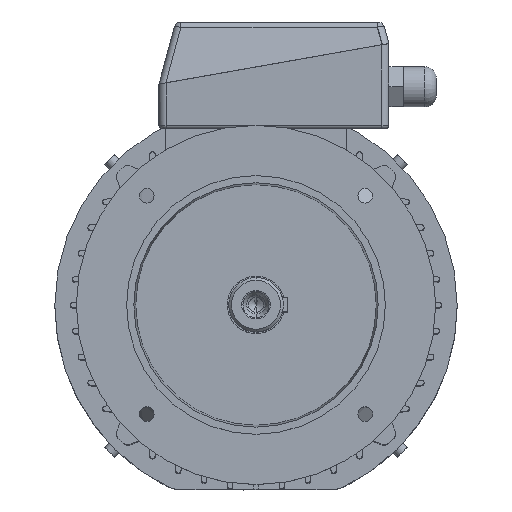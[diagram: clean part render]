
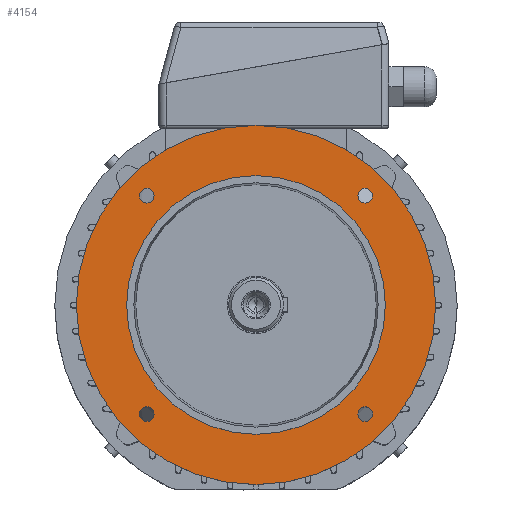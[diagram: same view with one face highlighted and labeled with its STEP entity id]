
A CAD part, top view. The second image highlights one B-rep face of the part: STEP entity #4154.
In plain terms, the highlighted planar face has unit normal (0, 0, 1).
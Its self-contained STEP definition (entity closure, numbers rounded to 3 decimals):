
#62 = EDGE_LOOP ( 'NONE', ( #15261, #14678 ) ) ;
#212 = CIRCLE ( 'NONE', #213, 5.1 ) ;
#213 = AXIS2_PLACEMENT_3D ( 'NONE', #214, #215, #216 ) ;
#214 = CARTESIAN_POINT ( 'NONE',  ( 76.014, 76.014, 58. ) ) ;
#215 = DIRECTION ( 'NONE',  ( 0., 0., 1. ) ) ;
#216 = DIRECTION ( 'NONE',  ( 1., 0., 0. ) ) ;
#236 = CARTESIAN_POINT ( 'NONE',  ( 90., 0., 58. ) ) ;
#339 = ORIENTED_EDGE ( 'NONE', *, *, #13151, .F. ) ;
#914 = EDGE_CURVE ( 'NONE', #13093, #13454, #14035, .T. ) ;
#923 = FACE_BOUND ( 'NONE', #3891, .T. ) ;
#924 = FACE_BOUND ( 'NONE', #1886, .T. ) ;
#925 = FACE_BOUND ( 'NONE', #62, .T. ) ;
#926 = FACE_OUTER_BOUND ( 'NONE', #13986, .T. ) ;
#927 = FACE_BOUND ( 'NONE', #13336, .T. ) ;
#928 = FACE_BOUND ( 'NONE', #12959, .T. ) ;
#929 = PLANE ( 'NONE',  #930 ) ;
#930 = AXIS2_PLACEMENT_3D ( 'NONE', #933, #934, #935 ) ;
#933 = CARTESIAN_POINT ( 'NONE',  ( 0., 125., 58. ) ) ;
#934 = DIRECTION ( 'NONE',  ( 0., 0., -1. ) ) ;
#935 = DIRECTION ( 'NONE',  ( -1., 0., 0. ) ) ;
#1324 = ORIENTED_EDGE ( 'NONE', *, *, #914, .F. ) ;
#1886 = EDGE_LOOP ( 'NONE', ( #1324, #339 ) ) ;
#2157 = ORIENTED_EDGE ( 'NONE', *, *, #7624, .F. ) ;
#2722 = EDGE_CURVE ( 'NONE', #7371, #9812, #212, .T. ) ;
#2743 = VERTEX_POINT ( 'NONE', #236 ) ;
#3083 = ORIENTED_EDGE ( 'NONE', *, *, #2722, .F. ) ;
#3891 = EDGE_LOOP ( 'NONE', ( #3083, #2157 ) ) ;
#4089 = CIRCLE ( 'NONE', #4090, 90. ) ;
#4090 = AXIS2_PLACEMENT_3D ( 'NONE', #4091, #4092, #4093 ) ;
#4091 = CARTESIAN_POINT ( 'NONE',  ( 0., 0., 58. ) ) ;
#4092 = DIRECTION ( 'NONE',  ( 0., 0., 1. ) ) ;
#4093 = DIRECTION ( 'NONE',  ( 1., 0., 0. ) ) ;
#4154 = ADVANCED_FACE ( 'NONE', ( #923, #924, #925, #926, #927, #928 ), #929, .F. ) ;
#4540 = CARTESIAN_POINT ( 'NONE',  ( 125., 0., 58. ) ) ;
#4625 = CARTESIAN_POINT ( 'NONE',  ( 81.114, 76.014, 58. ) ) ;
#4752 = CIRCLE ( 'NONE', #4753, 5.1 ) ;
#4753 = AXIS2_PLACEMENT_3D ( 'NONE', #4754, #4755, #4756 ) ;
#4754 = CARTESIAN_POINT ( 'NONE',  ( 76.014, 76.014, 58. ) ) ;
#4755 = DIRECTION ( 'NONE',  ( 0., 0., 1. ) ) ;
#4756 = DIRECTION ( 'NONE',  ( 1., 0., 0. ) ) ;
#5289 = CARTESIAN_POINT ( 'NONE',  ( -81.114, -76.014, 58. ) ) ;
#6094 = EDGE_CURVE ( 'NONE', #2743, #12861, #4089, .T. ) ;
#6399 = CARTESIAN_POINT ( 'NONE',  ( -70.914, 76.014, 58. ) ) ;
#6480 = CIRCLE ( 'NONE', #6481, 90. ) ;
#6481 = AXIS2_PLACEMENT_3D ( 'NONE', #6482, #6483, #6484 ) ;
#6482 = CARTESIAN_POINT ( 'NONE',  ( 0., 0., 58. ) ) ;
#6483 = DIRECTION ( 'NONE',  ( 0., 0., 1. ) ) ;
#6484 = DIRECTION ( 'NONE',  ( 1., 0., 0. ) ) ;
#6640 = CIRCLE ( 'NONE', #6641, 5.1 ) ;
#6641 = AXIS2_PLACEMENT_3D ( 'NONE', #6642, #6643, #6644 ) ;
#6642 = CARTESIAN_POINT ( 'NONE',  ( -76.014, 76.014, 58. ) ) ;
#6643 = DIRECTION ( 'NONE',  ( 0., 0., 1. ) ) ;
#6644 = DIRECTION ( 'NONE',  ( 1., 0., 0. ) ) ;
#7185 = VERTEX_POINT ( 'NONE', #4540 ) ;
#7371 = VERTEX_POINT ( 'NONE', #4625 ) ;
#7593 = CARTESIAN_POINT ( 'NONE',  ( -125., 0., 58. ) ) ;
#7624 = EDGE_CURVE ( 'NONE', #9812, #7371, #4752, .T. ) ;
#7744 = CARTESIAN_POINT ( 'NONE',  ( 70.914, 76.014, 58. ) ) ;
#8347 = CIRCLE ( 'NONE', #8348, 125. ) ;
#8348 = AXIS2_PLACEMENT_3D ( 'NONE', #8349, #8350, #8351 ) ;
#8349 = CARTESIAN_POINT ( 'NONE',  ( 0., 0., 58. ) ) ;
#8350 = DIRECTION ( 'NONE',  ( 0., 0., 1. ) ) ;
#8351 = DIRECTION ( 'NONE',  ( 1., 0., 0. ) ) ;
#9305 = CARTESIAN_POINT ( 'NONE',  ( -81.114, 76.014, 58. ) ) ;
#9598 = CIRCLE ( 'NONE', #9599, 5.1 ) ;
#9599 = AXIS2_PLACEMENT_3D ( 'NONE', #9600, #9601, #9602 ) ;
#9600 = CARTESIAN_POINT ( 'NONE',  ( -76.014, 76.014, 58. ) ) ;
#9601 = DIRECTION ( 'NONE',  ( 0., 0., 1. ) ) ;
#9602 = DIRECTION ( 'NONE',  ( 1., 0., 0. ) ) ;
#9812 = VERTEX_POINT ( 'NONE', #7744 ) ;
#10478 = CARTESIAN_POINT ( 'NONE',  ( -90., 0., 58. ) ) ;
#10646 = EDGE_CURVE ( 'NONE', #7185, #15005, #8347, .T. ) ;
#11097 = CARTESIAN_POINT ( 'NONE',  ( 81.114, -76.014, 58. ) ) ;
#11146 = CIRCLE ( 'NONE', #11147, 5.1 ) ;
#11147 = AXIS2_PLACEMENT_3D ( 'NONE', #11148, #11149, #11150 ) ;
#11148 = CARTESIAN_POINT ( 'NONE',  ( -76.014, -76.014, 58. ) ) ;
#11149 = DIRECTION ( 'NONE',  ( 0., 0., 1. ) ) ;
#11150 = DIRECTION ( 'NONE',  ( 1., 0., 0. ) ) ;
#11207 = CIRCLE ( 'NONE', #11208, 5.1 ) ;
#11208 = AXIS2_PLACEMENT_3D ( 'NONE', #11209, #11211, #11212 ) ;
#11209 = CARTESIAN_POINT ( 'NONE',  ( 76.014, -76.014, 58. ) ) ;
#11211 = DIRECTION ( 'NONE',  ( 0., 0., 1. ) ) ;
#11212 = DIRECTION ( 'NONE',  ( 1., 0., 0. ) ) ;
#11536 = CARTESIAN_POINT ( 'NONE',  ( -70.914, -76.014, 58. ) ) ;
#11687 = CIRCLE ( 'NONE', #11688, 125. ) ;
#11688 = AXIS2_PLACEMENT_3D ( 'NONE', #11689, #11690, #11691 ) ;
#11689 = CARTESIAN_POINT ( 'NONE',  ( 0., 0., 58. ) ) ;
#11690 = DIRECTION ( 'NONE',  ( 0., 0., 1. ) ) ;
#11691 = DIRECTION ( 'NONE',  ( 1., 0., 0. ) ) ;
#11753 = CIRCLE ( 'NONE', #11754, 5.1 ) ;
#11754 = AXIS2_PLACEMENT_3D ( 'NONE', #11755, #11756, #11757 ) ;
#11755 = CARTESIAN_POINT ( 'NONE',  ( -76.014, -76.014, 58. ) ) ;
#11756 = DIRECTION ( 'NONE',  ( 0., 0., 1. ) ) ;
#11757 = DIRECTION ( 'NONE',  ( 1., 0., 0. ) ) ;
#11854 = CARTESIAN_POINT ( 'NONE',  ( 70.914, -76.014, 58. ) ) ;
#12321 = ORIENTED_EDGE ( 'NONE', *, *, #14443, .F. ) ;
#12335 = VERTEX_POINT ( 'NONE', #9305 ) ;
#12442 = EDGE_CURVE ( 'NONE', #14200, #12335, #9598, .T. ) ;
#12527 = ORIENTED_EDGE ( 'NONE', *, *, #12442, .F. ) ;
#12861 = VERTEX_POINT ( 'NONE', #10478 ) ;
#12959 = EDGE_LOOP ( 'NONE', ( #12527, #12321 ) ) ;
#13009 = ORIENTED_EDGE ( 'NONE', *, *, #13419, .F. ) ;
#13093 = VERTEX_POINT ( 'NONE', #11097 ) ;
#13124 = EDGE_CURVE ( 'NONE', #13315, #13638, #11146, .T. ) ;
#13151 = EDGE_CURVE ( 'NONE', #13454, #13093, #11207, .T. ) ;
#13212 = ORIENTED_EDGE ( 'NONE', *, *, #13124, .F. ) ;
#13315 = VERTEX_POINT ( 'NONE', #11536 ) ;
#13336 = EDGE_LOOP ( 'NONE', ( #13212, #13009 ) ) ;
#13387 = EDGE_CURVE ( 'NONE', #15005, #7185, #11687, .T. ) ;
#13419 = EDGE_CURVE ( 'NONE', #13638, #13315, #11753, .T. ) ;
#13454 = VERTEX_POINT ( 'NONE', #11854 ) ;
#13482 = ORIENTED_EDGE ( 'NONE', *, *, #13387, .T. ) ;
#13612 = ORIENTED_EDGE ( 'NONE', *, *, #10646, .T. ) ;
#13638 = VERTEX_POINT ( 'NONE', #5289 ) ;
#13986 = EDGE_LOOP ( 'NONE', ( #13612, #13482 ) ) ;
#14035 = CIRCLE ( 'NONE', #14036, 5.1 ) ;
#14036 = AXIS2_PLACEMENT_3D ( 'NONE', #14037, #14038, #14039 ) ;
#14037 = CARTESIAN_POINT ( 'NONE',  ( 76.014, -76.014, 58. ) ) ;
#14038 = DIRECTION ( 'NONE',  ( 0., 0., 1. ) ) ;
#14039 = DIRECTION ( 'NONE',  ( 1., 0., 0. ) ) ;
#14200 = VERTEX_POINT ( 'NONE', #6399 ) ;
#14267 = EDGE_CURVE ( 'NONE', #12861, #2743, #6480, .T. ) ;
#14443 = EDGE_CURVE ( 'NONE', #12335, #14200, #6640, .T. ) ;
#14678 = ORIENTED_EDGE ( 'NONE', *, *, #14267, .F. ) ;
#15005 = VERTEX_POINT ( 'NONE', #7593 ) ;
#15261 = ORIENTED_EDGE ( 'NONE', *, *, #6094, .F. ) ;
